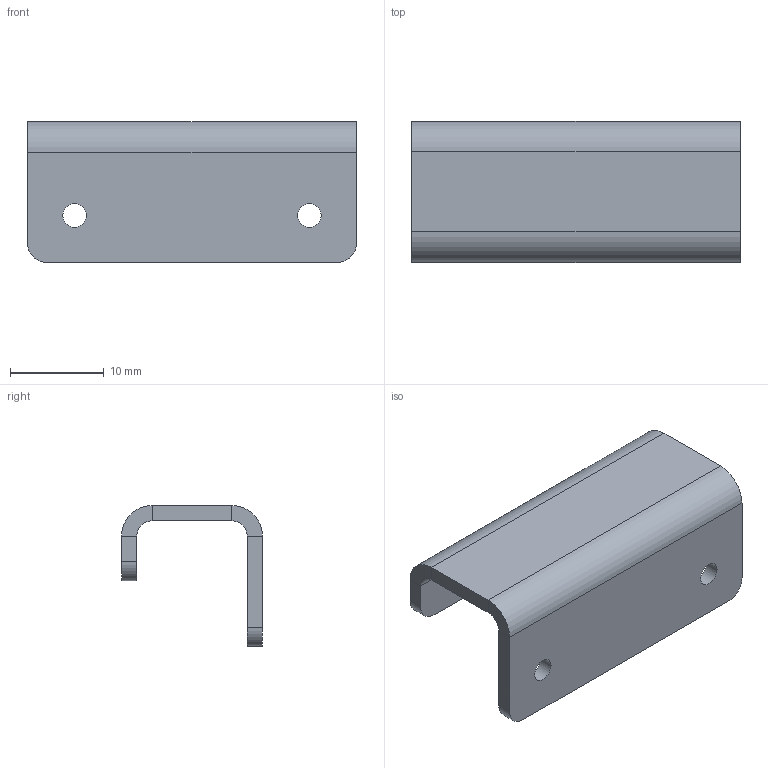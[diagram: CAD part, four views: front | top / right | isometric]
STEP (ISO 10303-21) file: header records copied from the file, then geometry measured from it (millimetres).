
FILE_DESCRIPTION(/* description */ (''),/* implementation_level */ '2;1');
FILE_NAME(/* name */ 'C:\Users\strothej\Documents\ActualDocuments\MicroscopeParts\TwoPhotonSystem\ScanningMechanics\v26\Drawings\Collection_Zeiss_Filter_Cube_Mount_Handle.stp',/* time_stamp */ '2017-05-19T11:54:17-07:00',/* author */ ('strothej'),/* organization */ (''),/* preprocessor_version */ 'ST-DEVELOPER v16.1',/* originating_system */ 'Autodesk Inventor 2016',/* authorisation */ '');
FILE_SCHEMA (('AUTOMOTIVE_DESIGN { 1 0 10303 214 3 1 1 }'));
Length unit declared in the file: millimetre
Products named in the file (1): Collection_Zeiss_Filter_Cube_Mount_Handle
Bounding box: 35 x 15 x 15 mm (x, y, z)
Volume: 1836.4 mm3; surface area: 2499.3 mm2
Topology: 1 solids, 1 shells, 28 faces, 62 edges, 36 vertices
Faces by surface type: plane 18, cylinder 10
Full cylindrical faces by diameter (mm): 2.5 x2
Entity records: 780 total; most frequent: DIRECTION 138, CARTESIAN_POINT 125, ORIENTED_EDGE 120, EDGE_CURVE 60, AXIS2_PLACEMENT_3D 49, LINE 40, VECTOR 40, VERTEX_POINT 36
